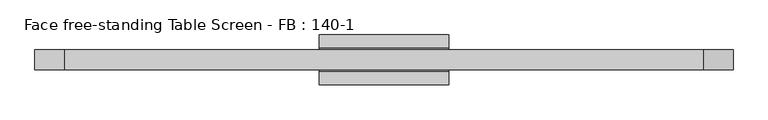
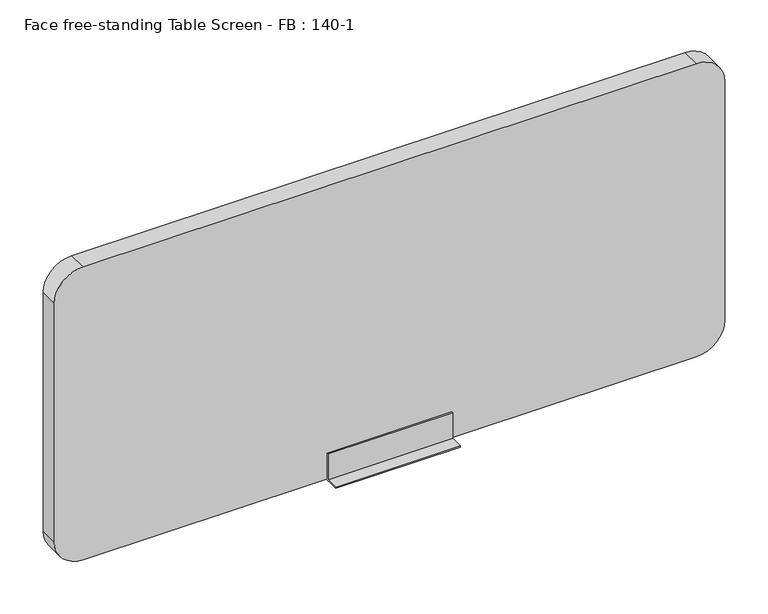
"""IFC4 building model written with IfcOpenShell, lengths in millimetres: furniture geometry, Face free-standing Table Screen - FB : 140-1."""

from ifc_helpers import new_model, si_unit, point, frame, frame_2d, origin, place, context, project, spatial, polyline, circle_curve, trimmed, segment, composite_curve, outline, extrude, source, transform, mapped, element, save


def face_free_standing_table_screen_fb_140_1_1c1aa315(model_context):
    return source(origin(), model_context, "Body", "SweptSolid", [
        extrude(outline(polyline([(-50.0, 3.0), (-22.999995, 3.0), (-23.0, 60.0), (-20.0, 60.0), (-20.0, 3.0), (20.0, 3.0), (20.0, 60.0), (23.0, 60.0), (22.999995, 3.0), (50.0, 3.0), (50.0, 0.0), (-50.0, 0.0), (-50.0, 3.0)])), frame((-130.0, 0.0, 0.0), z_axis=(1.0, 0.0, 0.0), x_axis=(0.0, 1.0, 0.0)), (0.0, 0.0, 1.0), 260.0),
        extrude(outline(composite_curve([segment(polyline([(650.0, 640.0), (650.0, -640.0)]), True, "CONTINUOUS"), segment(trimmed(circle_curve(frame_2d((590.0, -640.0)), 60.0), [point((650.0, -640.0))], [point((590.0, -700.0))], False, "CARTESIAN"), True, "CONTINUOUS"), segment(polyline([(590.0, -700.0), (63.0, -700.0)]), True, "CONTINUOUS"), segment(trimmed(circle_curve(frame_2d((63.0, -640.0)), 60.0), [point((63.0, -700.0))], [point((3.0, -640.0))], False, "CARTESIAN"), True, "CONTINUOUS"), segment(polyline([(3.0, -640.0), (3.0, 640.0)]), True, "CONTINUOUS"), segment(trimmed(circle_curve(frame_2d((63.0, 640.0)), 60.0), [point((3.0, 640.0))], [point((63.0, 700.0))], False, "CARTESIAN"), True, "CONTINUOUS"), segment(polyline([(63.0, 700.0), (590.0, 700.0)]), True, "CONTINUOUS"), segment(trimmed(circle_curve(frame_2d((590.0, 640.0)), 60.0), [point((590.0, 700.0))], [point((650.0, 640.0))], False, "CARTESIAN"), True, "CONTINUOUS")], self_intersect=False)), frame((0.0, -20.0, 0.0), z_axis=(0.0, 1.0, 0.0), x_axis=(0.0, 0.0, 1.0)), (0.0, 0.0, 1.0), 40.0),
    ])


if __name__ == "__main__":
    model = new_model("IFC4")
    model_context = context("Model", 3, world=origin())
    ifc_project = project(units=[si_unit("LENGTHUNIT", "METRE", prefix="MILLI")], contexts=[model_context])
    site = spatial("IfcSite", under=ifc_project)
    building = spatial("IfcBuilding", under=site)
    placement = place(None, origin())
    face_free_standing_table_screen_fb_140_1_shape = face_free_standing_table_screen_fb_140_1_1c1aa315(model_context)
    element("IfcFurniture", 1, ObjectType="Face free-standing Table Screen - FB : 140-1", at=placement, inside=building, context=model_context, shape_type="MappedRepresentation", body=[
        mapped(face_free_standing_table_screen_fb_140_1_shape, transform((0.0, 0.0, 0.0), x_axis=(1.0, 0.0, 0.0), y_axis=(0.0, 1.0, 0.0), z_axis=(0.0, 0.0, 1.0))),
    ])
    save(model, "model.ifc")
